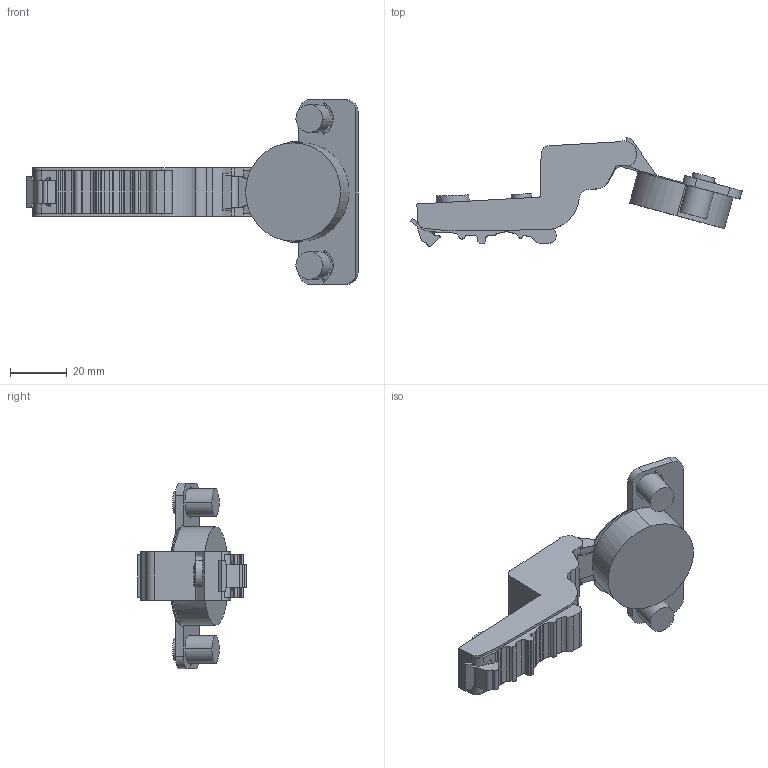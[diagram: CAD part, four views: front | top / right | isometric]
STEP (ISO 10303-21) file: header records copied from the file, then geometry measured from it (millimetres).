
FILE_DESCRIPTION (( 'STEP AP203' ), '1' );
FILE_NAME ('C82C677T0FA-DTC 3D open.STEP', '2024-07-10T09:08:25', ( '微软用户' ), ( '微软中国' ), 'SwSTEP 2.0', 'SolidWorks 2021', '' );
FILE_SCHEMA (( 'CONFIG_CONTROL_DESIGN' ));
Length unit declared in the file: millimetre
Products named in the file (1): C82C677T0FA-DTC 3D open
Bounding box: 117.51 x 38.46 x 65.56 mm (x, y, z)
Volume: 37979.4 mm3; surface area: 12934.9 mm2
Topology: 1 solids, 5 shells, 395 faces, 1097 edges, 712 vertices
Faces by surface type: cylinder 164, plane 159, torus 54, bspline 14, cone 4
Entity records: 13314 total; most frequent: CARTESIAN_POINT 3071, ORIENTED_EDGE 2194, DIRECTION 2154, EDGE_CURVE 1097, AXIS2_PLACEMENT_3D 803, VERTEX_POINT 712, VECTOR 548, LINE 548
